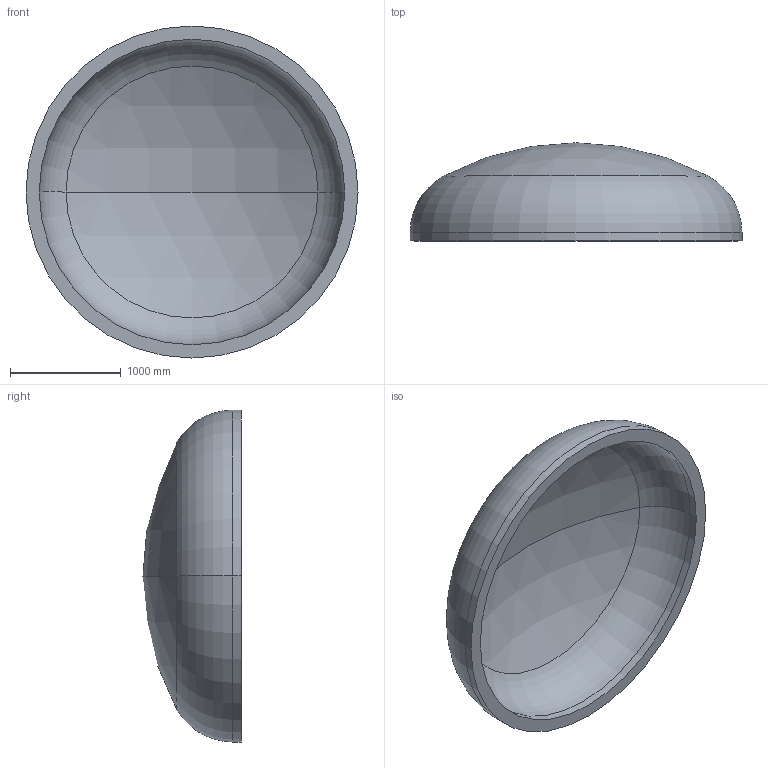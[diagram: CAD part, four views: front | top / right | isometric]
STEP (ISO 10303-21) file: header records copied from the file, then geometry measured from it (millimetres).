
FILE_DESCRIPTION (( 'STEP AP203' ), '1' );
FILE_NAME ('DIN 28013 Korbbogenform_-_Boden DIN 28013 - 3000 x 75 - I - s=120.step', '2016-07-01T18:13:00', ( '' ), ( '' ), 'SwSTEP 2.0', 'SolidWorks 2013', '' );
FILE_SCHEMA (( 'CONFIG_CONTROL_DESIGN' ));
Length unit declared in the file: millimetre
Products named in the file (1): DIN 28013 Korbbogenform_-_Boden DIN 28013 - 3000 x 75 - I - s=120
Bounding box: 3000 x 887.02 x 3000 mm (x, y, z)
Volume: 1195901519.8 mm3; surface area: 21047579.4 mm2
Topology: 1 solids, 1 shells, 13 faces, 24 edges, 14 vertices
Faces by surface type: torus 4, cylinder 4, sphere 4, plane 1
Entity records: 407 total; most frequent: DIRECTION 72, CARTESIAN_POINT 52, ORIENTED_EDGE 48, AXIS2_PLACEMENT_3D 34, EDGE_CURVE 24, CIRCLE 20, EDGE_LOOP 14, VERTEX_POINT 14
